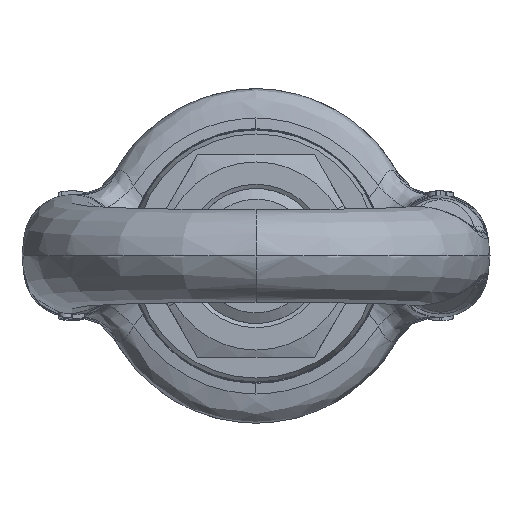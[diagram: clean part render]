
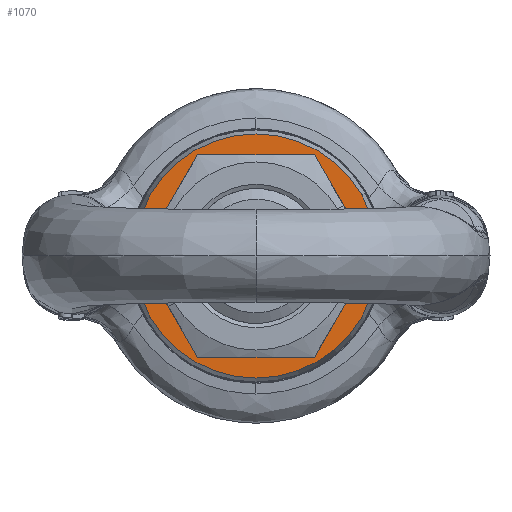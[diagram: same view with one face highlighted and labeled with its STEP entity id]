
A CAD part, front view. The second image highlights one B-rep face of the part: STEP entity #1070.
In plain terms, the highlighted planar face has unit normal (0, -1, 0).
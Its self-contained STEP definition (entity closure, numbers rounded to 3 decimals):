
#1070=ADVANCED_FACE('',(#2999,#3000),#3001,.T.);
#2999=FACE_OUTER_BOUND('',#21631,.T.);
#3000=FACE_BOUND('',#21632,.T.);
#3001=PLANE('',#21633);
#21631=EDGE_LOOP('',(#28111,#28112));
#21632=EDGE_LOOP('',(#28113,#28114,#28115,#28116,#28117,#28118));
#21633=AXIS2_PLACEMENT_3D('',#28119,#28120,#28121);
#28111=ORIENTED_EDGE('',*,*,#30729,.T.);
#28112=ORIENTED_EDGE('',*,*,#30695,.T.);
#28113=ORIENTED_EDGE('',*,*,#30730,.F.);
#28114=ORIENTED_EDGE('',*,*,#30731,.F.);
#28115=ORIENTED_EDGE('',*,*,#30732,.F.);
#28116=ORIENTED_EDGE('',*,*,#30733,.F.);
#28117=ORIENTED_EDGE('',*,*,#30734,.F.);
#28118=ORIENTED_EDGE('',*,*,#30735,.F.);
#28119=CARTESIAN_POINT('',(0.,-63.65,0.));
#28120=DIRECTION('',(0.,-1.0,0.));
#28121=DIRECTION('',(-0.866,0.,-0.5));
#30695=EDGE_CURVE('',#34546,#34544,#34547,.T.);
#30729=EDGE_CURVE('',#34544,#34546,#34601,.T.);
#30730=EDGE_CURVE('',#34602,#34603,#34604,.T.);
#30731=EDGE_CURVE('',#34605,#34602,#34606,.T.);
#30732=EDGE_CURVE('',#34607,#34605,#34608,.T.);
#30733=EDGE_CURVE('',#34609,#34607,#34610,.T.);
#30734=EDGE_CURVE('',#34611,#34609,#34612,.T.);
#30735=EDGE_CURVE('',#34603,#34611,#34613,.T.);
#34544=VERTEX_POINT('',#61822);
#34546=VERTEX_POINT('',#61825);
#34547=CIRCLE('',#61826,14.477);
#34601=CIRCLE('',#61963,14.477);
#34602=VERTEX_POINT('',#61964);
#34603=VERTEX_POINT('',#61965);
#34604=LINE('',#61966,#61967);
#34605=VERTEX_POINT('',#61968);
#34606=LINE('',#61969,#61970);
#34607=VERTEX_POINT('',#61971);
#34608=LINE('',#61972,#61973);
#34609=VERTEX_POINT('',#61974);
#34610=LINE('',#61975,#61976);
#34611=VERTEX_POINT('',#61977);
#34612=LINE('',#61978,#61979);
#34613=LINE('',#61980,#61981);
#61822=CARTESIAN_POINT('',(12.537,-63.65,7.238));
#61825=CARTESIAN_POINT('',(-12.537,-63.65,-7.238));
#61826=AXIS2_PLACEMENT_3D('',#65219,#65220,#65221);
#61963=AXIS2_PLACEMENT_3D('',#65275,#65276,#65277);
#61964=CARTESIAN_POINT('',(-13.856,-63.65,0.));
#61965=CARTESIAN_POINT('',(-6.928,-63.65,-12.0));
#61966=CARTESIAN_POINT('',(-10.392,-63.65,-6.));
#61967=VECTOR('',#65278,1000.0);
#61968=CARTESIAN_POINT('',(-6.928,-63.65,12.0));
#61969=CARTESIAN_POINT('',(-10.392,-63.65,6.));
#61970=VECTOR('',#65279,1000.0);
#61971=CARTESIAN_POINT('',(6.928,-63.65,12.0));
#61972=CARTESIAN_POINT('',(0.,-63.65,12.0));
#61973=VECTOR('',#65280,1000.0);
#61974=CARTESIAN_POINT('',(13.856,-63.65,0.));
#61975=CARTESIAN_POINT('',(10.392,-63.65,6.0));
#61976=VECTOR('',#65281,1000.0);
#61977=CARTESIAN_POINT('',(6.928,-63.65,-12.0));
#61978=CARTESIAN_POINT('',(10.392,-63.65,-6.));
#61979=VECTOR('',#65282,1000.0);
#61980=CARTESIAN_POINT('',(0.,-63.65,-12.0));
#61981=VECTOR('',#65283,1000.0);
#65219=CARTESIAN_POINT('',(0.,-63.65,0.));
#65220=DIRECTION('',(0.,-1.0,0.));
#65221=DIRECTION('',(-0.866,0.,-0.5));
#65275=CARTESIAN_POINT('',(0.,-63.65,0.));
#65276=DIRECTION('',(0.,-1.0,0.));
#65277=DIRECTION('',(-0.866,0.,-0.5));
#65278=DIRECTION('',(0.5,0.,-0.866));
#65279=DIRECTION('',(-0.5,0.,-0.866));
#65280=DIRECTION('',(-1.0,0.,0.0));
#65281=DIRECTION('',(-0.5,0.,0.866));
#65282=DIRECTION('',(0.5,0.,0.866));
#65283=DIRECTION('',(1.0,0.,0.0));
